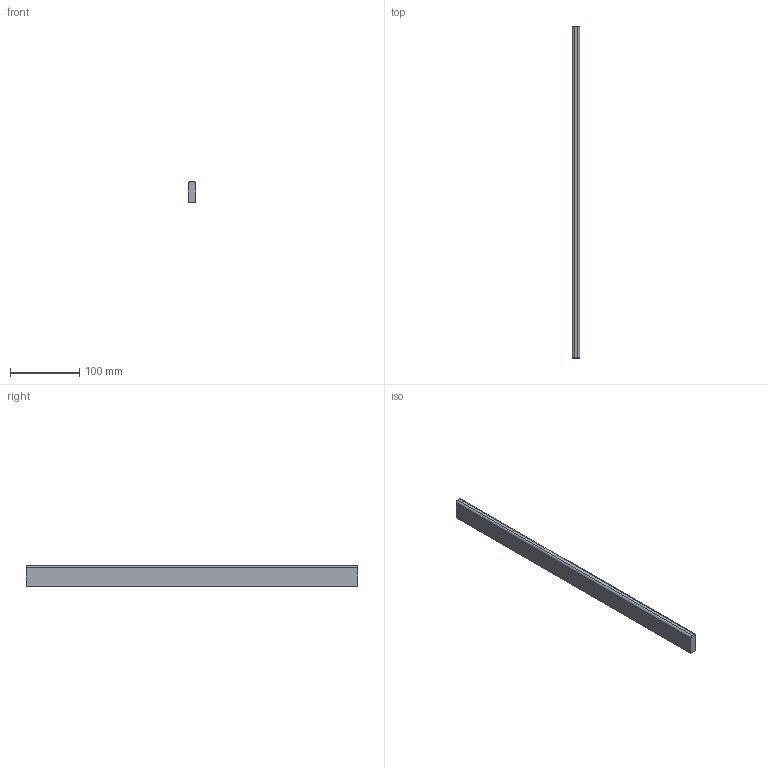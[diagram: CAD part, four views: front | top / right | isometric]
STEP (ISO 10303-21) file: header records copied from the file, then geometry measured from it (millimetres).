
FILE_DESCRIPTION (( 'STEP AP214' ), '1' );
FILE_NAME ('_Seitenreling_S610000200_RL481.step', '2010-09-06T14:51:20', ( 'grass' ), ( '' ), 'SwSTEP 2.0', 'SolidWorks 2010', '' );
FILE_SCHEMA (( 'AUTOMOTIVE_DESIGN' ));
Length unit declared in the file: millimetre
Products named in the file (1): _Seitenreling_S610000200_RL481
Bounding box: 10.5 x 481 x 30 mm (x, y, z)
Volume: 149657 mm3; surface area: 38344.6 mm2
Topology: 1 solids, 1 shells, 8 faces, 18 edges, 12 vertices
Faces by surface type: plane 6, cylinder 2
Entity records: 260 total; most frequent: DIRECTION 40, CARTESIAN_POINT 39, ORIENTED_EDGE 36, EDGE_CURVE 18, LINE 14, VECTOR 14, AXIS2_PLACEMENT_3D 13, VERTEX_POINT 12
